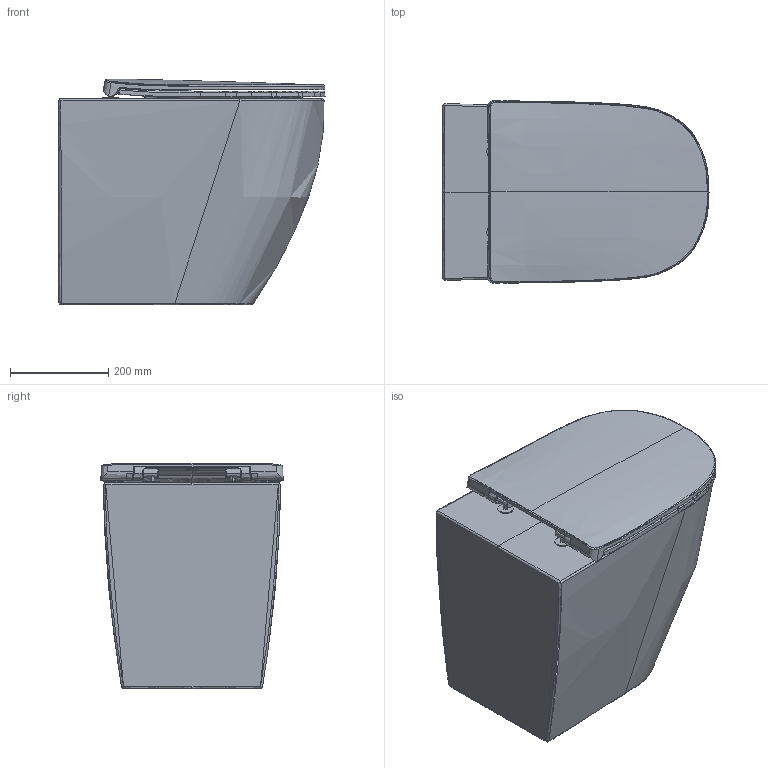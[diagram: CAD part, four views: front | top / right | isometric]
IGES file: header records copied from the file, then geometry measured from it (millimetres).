
Global section: file name: C:\Users\FULVIO\Desktop\Archivio Nic\Pin\Pin Wc Terra\Modello 3D\Pin Wc Terra.igs; native system: Rhinoceros ( Mar  6 2018 ); preprocessor: Trout Lake IGES 012 Mar  6 2018; date: 200226.204352; units: millimetre
Bounding box: 542.2 x 371.29 x 459.43 mm (x, y, z)
Surface area: 1740583.5 mm2 (no closed solid volume)
Topology: 0 solids, 0 shells, 1092 faces, 10292 edges, 10240 vertices
Faces by surface type: bspline 1092
